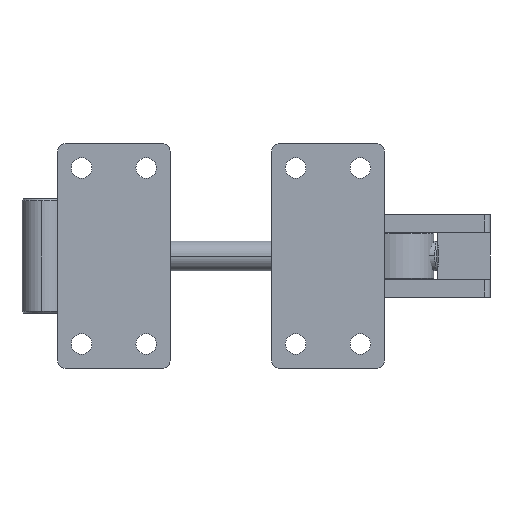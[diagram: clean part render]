
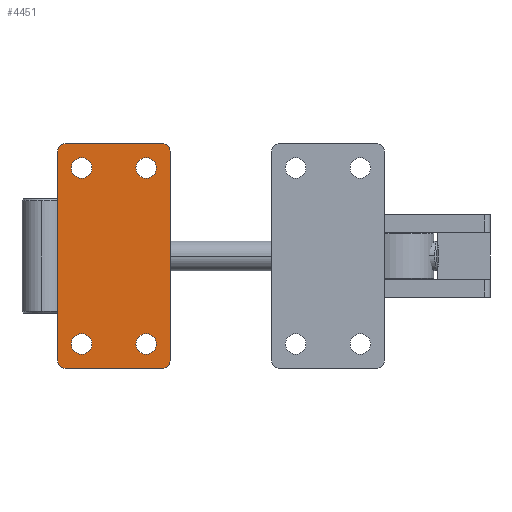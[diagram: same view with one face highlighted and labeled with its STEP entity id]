
A CAD part, front view. The second image highlights one B-rep face of the part: STEP entity #4451.
In plain terms, the highlighted planar face has unit normal (0, -1, 0).
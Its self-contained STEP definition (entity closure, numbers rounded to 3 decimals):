
#38 = CIRCLE ( 'NONE', #4260, 5.5 ) ;
#44 = AXIS2_PLACEMENT_3D ( 'NONE', #4329, #3761, #788 ) ;
#99 = EDGE_CURVE ( 'NONE', #495, #2770, #746, .T. ) ;
#198 = VECTOR ( 'NONE', #300, 1000. ) ;
#249 = ORIENTED_EDGE ( 'NONE', *, *, #401, .T. ) ;
#292 = EDGE_CURVE ( 'NONE', #486, #1329, #4098, .T. ) ;
#300 = DIRECTION ( 'NONE',  ( 0., 0., -1. ) ) ;
#314 = CIRCLE ( 'NONE', #2296, 4. ) ;
#355 = DIRECTION ( 'NONE',  ( 0., 1., 0. ) ) ;
#360 = DIRECTION ( 'NONE',  ( 0., 0., 1. ) ) ;
#379 = VERTEX_POINT ( 'NONE', #1017 ) ;
#401 = EDGE_CURVE ( 'NONE', #1329, #486, #3096, .T. ) ;
#411 = CARTESIAN_POINT ( 'NONE',  ( -60., 0., -26. ) ) ;
#436 = LINE ( 'NONE', #411, #1212 ) ;
#486 = VERTEX_POINT ( 'NONE', #4386 ) ;
#495 = VERTEX_POINT ( 'NONE', #505 ) ;
#505 = CARTESIAN_POINT ( 'NONE',  ( 47., 0., 22.75 ) ) ;
#532 = CIRCLE ( 'NONE', #4356, 4. ) ;
#537 = DIRECTION ( 'NONE',  ( 0., 1., 0. ) ) ;
#555 = VERTEX_POINT ( 'NONE', #3238 ) ;
#587 = DIRECTION ( 'NONE',  ( 0., 1., 0. ) ) ;
#592 = FACE_OUTER_BOUND ( 'NONE', #3924, .T. ) ;
#622 = AXIS2_PLACEMENT_3D ( 'NONE', #3444, #4967, #360 ) ;
#653 = CARTESIAN_POINT ( 'NONE',  ( -47., 0., -17.25 ) ) ;
#693 = CARTESIAN_POINT ( 'NONE',  ( -47., 0., -17.25 ) ) ;
#746 = CIRCLE ( 'NONE', #2747, 5.5 ) ;
#753 = DIRECTION ( 'NONE',  ( 0., 0., 1. ) ) ;
#788 = DIRECTION ( 'NONE',  ( 0., 0., 1. ) ) ;
#814 = VECTOR ( 'NONE', #1929, 1000. ) ;
#842 = AXIS2_PLACEMENT_3D ( 'NONE', #653, #587, #1783 ) ;
#884 = CARTESIAN_POINT ( 'NONE',  ( -56., 0., -26. ) ) ;
#969 = DIRECTION ( 'NONE',  ( 0., 0., 1. ) ) ;
#1017 = CARTESIAN_POINT ( 'NONE',  ( -47., 0., 11.75 ) ) ;
#1102 = ORIENTED_EDGE ( 'NONE', *, *, #2868, .F. ) ;
#1119 = CARTESIAN_POINT ( 'NONE',  ( 47., 0., -11.75 ) ) ;
#1126 = ORIENTED_EDGE ( 'NONE', *, *, #1728, .T. ) ;
#1185 = DIRECTION ( 'NONE',  ( 0., 0., 1. ) ) ;
#1212 = VECTOR ( 'NONE', #1185, 1000. ) ;
#1279 = DIRECTION ( 'NONE',  ( 0., 1., 0. ) ) ;
#1329 = VERTEX_POINT ( 'NONE', #1119 ) ;
#1355 = DIRECTION ( 'NONE',  ( 0., 1., 0. ) ) ;
#1360 = CARTESIAN_POINT ( 'NONE',  ( 56., 0., 26. ) ) ;
#1408 = CARTESIAN_POINT ( 'NONE',  ( -56., 0., -30. ) ) ;
#1416 = EDGE_CURVE ( 'NONE', #4963, #1892, #314, .T. ) ;
#1450 = EDGE_CURVE ( 'NONE', #1892, #2413, #436, .T. ) ;
#1455 = VERTEX_POINT ( 'NONE', #3928 ) ;
#1480 = EDGE_CURVE ( 'NONE', #3860, #3621, #2240, .T. ) ;
#1496 = FACE_BOUND ( 'NONE', #4536, .T. ) ;
#1514 = ORIENTED_EDGE ( 'NONE', *, *, #2581, .F. ) ;
#1540 = DIRECTION ( 'NONE',  ( 0., 0., 1. ) ) ;
#1557 = DIRECTION ( 'NONE',  ( 0., 0., 1. ) ) ;
#1610 = FACE_BOUND ( 'NONE', #4668, .T. ) ;
#1613 = PLANE ( 'NONE',  #4431 ) ;
#1689 = VERTEX_POINT ( 'NONE', #2107 ) ;
#1706 = CARTESIAN_POINT ( 'NONE',  ( 56., 0., -26. ) ) ;
#1728 = EDGE_CURVE ( 'NONE', #379, #1455, #3589, .T. ) ;
#1775 = AXIS2_PLACEMENT_3D ( 'NONE', #693, #3685, #1540 ) ;
#1783 = DIRECTION ( 'NONE',  ( 0., 0., 1. ) ) ;
#1789 = DIRECTION ( 'NONE',  ( 0., 0., 1. ) ) ;
#1800 = ORIENTED_EDGE ( 'NONE', *, *, #1450, .F. ) ;
#1859 = DIRECTION ( 'NONE',  ( -1., 0., 0. ) ) ;
#1885 = LINE ( 'NONE', #4702, #4727 ) ;
#1892 = VERTEX_POINT ( 'NONE', #2147 ) ;
#1893 = DIRECTION ( 'NONE',  ( 0., 1., 0. ) ) ;
#1929 = DIRECTION ( 'NONE',  ( 1., 0., 0. ) ) ;
#2107 = CARTESIAN_POINT ( 'NONE',  ( -47., 0., -11.75 ) ) ;
#2147 = CARTESIAN_POINT ( 'NONE',  ( -60., 0., -26. ) ) ;
#2152 = CARTESIAN_POINT ( 'NONE',  ( 47., 0., 11.75 ) ) ;
#2169 = ORIENTED_EDGE ( 'NONE', *, *, #3653, .T. ) ;
#2196 = CIRCLE ( 'NONE', #622, 4. ) ;
#2240 = LINE ( 'NONE', #2997, #198 ) ;
#2267 = CIRCLE ( 'NONE', #1775, 5.5 ) ;
#2293 = CARTESIAN_POINT ( 'NONE',  ( -56., 0., 30. ) ) ;
#2296 = AXIS2_PLACEMENT_3D ( 'NONE', #884, #3887, #1557 ) ;
#2407 = ORIENTED_EDGE ( 'NONE', *, *, #1416, .F. ) ;
#2413 = VERTEX_POINT ( 'NONE', #4273 ) ;
#2498 = CARTESIAN_POINT ( 'NONE',  ( 47., 0., 17.25 ) ) ;
#2513 = VERTEX_POINT ( 'NONE', #2293 ) ;
#2539 = DIRECTION ( 'NONE',  ( 0., 0., 1. ) ) ;
#2581 = EDGE_CURVE ( 'NONE', #2413, #2513, #2196, .T. ) ;
#2586 = DIRECTION ( 'NONE',  ( 0., 1., 0. ) ) ;
#2650 = FACE_BOUND ( 'NONE', #3202, .T. ) ;
#2667 = DIRECTION ( 'NONE',  ( 0., 1., 0. ) ) ;
#2747 = AXIS2_PLACEMENT_3D ( 'NONE', #2498, #1279, #969 ) ;
#2770 = VERTEX_POINT ( 'NONE', #2152 ) ;
#2782 = ORIENTED_EDGE ( 'NONE', *, *, #292, .T. ) ;
#2842 = AXIS2_PLACEMENT_3D ( 'NONE', #1706, #537, #4077 ) ;
#2868 = EDGE_CURVE ( 'NONE', #3621, #4713, #3527, .T. ) ;
#2905 = ORIENTED_EDGE ( 'NONE', *, *, #1480, .F. ) ;
#2996 = ORIENTED_EDGE ( 'NONE', *, *, #4842, .F. ) ;
#2997 = CARTESIAN_POINT ( 'NONE',  ( 60., 0., -26. ) ) ;
#3005 = CIRCLE ( 'NONE', #842, 5.5 ) ;
#3026 = CARTESIAN_POINT ( 'NONE',  ( -56., 0., 30. ) ) ;
#3075 = EDGE_CURVE ( 'NONE', #4139, #1689, #3005, .T. ) ;
#3096 = CIRCLE ( 'NONE', #44, 5.5 ) ;
#3202 = EDGE_LOOP ( 'NONE', ( #3573, #3577 ) ) ;
#3215 = AXIS2_PLACEMENT_3D ( 'NONE', #4654, #1893, #753 ) ;
#3238 = CARTESIAN_POINT ( 'NONE',  ( 56., 0., 30. ) ) ;
#3267 = EDGE_CURVE ( 'NONE', #1689, #4139, #2267, .T. ) ;
#3383 = CARTESIAN_POINT ( 'NONE',  ( 60., 0., -26. ) ) ;
#3440 = CARTESIAN_POINT ( 'NONE',  ( -47., 0., 17.25 ) ) ;
#3444 = CARTESIAN_POINT ( 'NONE',  ( -56., 0., 26. ) ) ;
#3527 = CIRCLE ( 'NONE', #2842, 4. ) ;
#3573 = ORIENTED_EDGE ( 'NONE', *, *, #3075, .T. ) ;
#3577 = ORIENTED_EDGE ( 'NONE', *, *, #3267, .T. ) ;
#3589 = CIRCLE ( 'NONE', #4934, 5.5 ) ;
#3621 = VERTEX_POINT ( 'NONE', #3383 ) ;
#3630 = ORIENTED_EDGE ( 'NONE', *, *, #4245, .F. ) ;
#3636 = EDGE_LOOP ( 'NONE', ( #2782, #249 ) ) ;
#3653 = EDGE_CURVE ( 'NONE', #2770, #495, #38, .T. ) ;
#3683 = ORIENTED_EDGE ( 'NONE', *, *, #3706, .F. ) ;
#3685 = DIRECTION ( 'NONE',  ( 0., 1., 0. ) ) ;
#3706 = EDGE_CURVE ( 'NONE', #2513, #555, #4117, .T. ) ;
#3761 = DIRECTION ( 'NONE',  ( 0., 1., 0. ) ) ;
#3819 = CARTESIAN_POINT ( 'NONE',  ( -47., 0., -22.75 ) ) ;
#3860 = VERTEX_POINT ( 'NONE', #4959 ) ;
#3887 = DIRECTION ( 'NONE',  ( 0., 1., 0. ) ) ;
#3900 = CIRCLE ( 'NONE', #3215, 5.5 ) ;
#3912 = ORIENTED_EDGE ( 'NONE', *, *, #99, .T. ) ;
#3924 = EDGE_LOOP ( 'NONE', ( #2407, #3630, #1102, #2905, #2996, #3683, #1514, #1800 ) ) ;
#3928 = CARTESIAN_POINT ( 'NONE',  ( -47., 0., 22.75 ) ) ;
#3966 = DIRECTION ( 'NONE',  ( 0., 1., 0. ) ) ;
#3973 = DIRECTION ( 'NONE',  ( 0., 0., 1. ) ) ;
#4077 = DIRECTION ( 'NONE',  ( 0., 0., 1. ) ) ;
#4098 = CIRCLE ( 'NONE', #4627, 5.5 ) ;
#4117 = LINE ( 'NONE', #3026, #814 ) ;
#4120 = CARTESIAN_POINT ( 'NONE',  ( -56., 0., -26. ) ) ;
#4139 = VERTEX_POINT ( 'NONE', #3819 ) ;
#4245 = EDGE_CURVE ( 'NONE', #4713, #4963, #1885, .T. ) ;
#4260 = AXIS2_PLACEMENT_3D ( 'NONE', #4585, #355, #4521 ) ;
#4273 = CARTESIAN_POINT ( 'NONE',  ( -60., 0., 26. ) ) ;
#4329 = CARTESIAN_POINT ( 'NONE',  ( 47., 0., -17.25 ) ) ;
#4356 = AXIS2_PLACEMENT_3D ( 'NONE', #1360, #2586, #1789 ) ;
#4378 = EDGE_CURVE ( 'NONE', #1455, #379, #3900, .T. ) ;
#4386 = CARTESIAN_POINT ( 'NONE',  ( 47., 0., -22.75 ) ) ;
#4431 = AXIS2_PLACEMENT_3D ( 'NONE', #4120, #3966, #4810 ) ;
#4451 = ADVANCED_FACE ( 'NONE', ( #4577, #1610, #592, #2650, #1496 ), #1613, .F. ) ;
#4480 = ORIENTED_EDGE ( 'NONE', *, *, #4378, .T. ) ;
#4513 = CARTESIAN_POINT ( 'NONE',  ( 56., 0., -30. ) ) ;
#4521 = DIRECTION ( 'NONE',  ( 0., 0., 1. ) ) ;
#4536 = EDGE_LOOP ( 'NONE', ( #2169, #3912 ) ) ;
#4577 = FACE_BOUND ( 'NONE', #3636, .T. ) ;
#4585 = CARTESIAN_POINT ( 'NONE',  ( 47., 0., 17.25 ) ) ;
#4627 = AXIS2_PLACEMENT_3D ( 'NONE', #4730, #1355, #3973 ) ;
#4654 = CARTESIAN_POINT ( 'NONE',  ( -47., 0., 17.25 ) ) ;
#4668 = EDGE_LOOP ( 'NONE', ( #1126, #4480 ) ) ;
#4702 = CARTESIAN_POINT ( 'NONE',  ( 56., 0., -30. ) ) ;
#4713 = VERTEX_POINT ( 'NONE', #4513 ) ;
#4727 = VECTOR ( 'NONE', #1859, 1000. ) ;
#4730 = CARTESIAN_POINT ( 'NONE',  ( 47., 0., -17.25 ) ) ;
#4810 = DIRECTION ( 'NONE',  ( 0., 0., 1. ) ) ;
#4842 = EDGE_CURVE ( 'NONE', #555, #3860, #532, .T. ) ;
#4934 = AXIS2_PLACEMENT_3D ( 'NONE', #3440, #2667, #2539 ) ;
#4959 = CARTESIAN_POINT ( 'NONE',  ( 60., 0., 26. ) ) ;
#4963 = VERTEX_POINT ( 'NONE', #1408 ) ;
#4967 = DIRECTION ( 'NONE',  ( 0., 1., 0. ) ) ;
